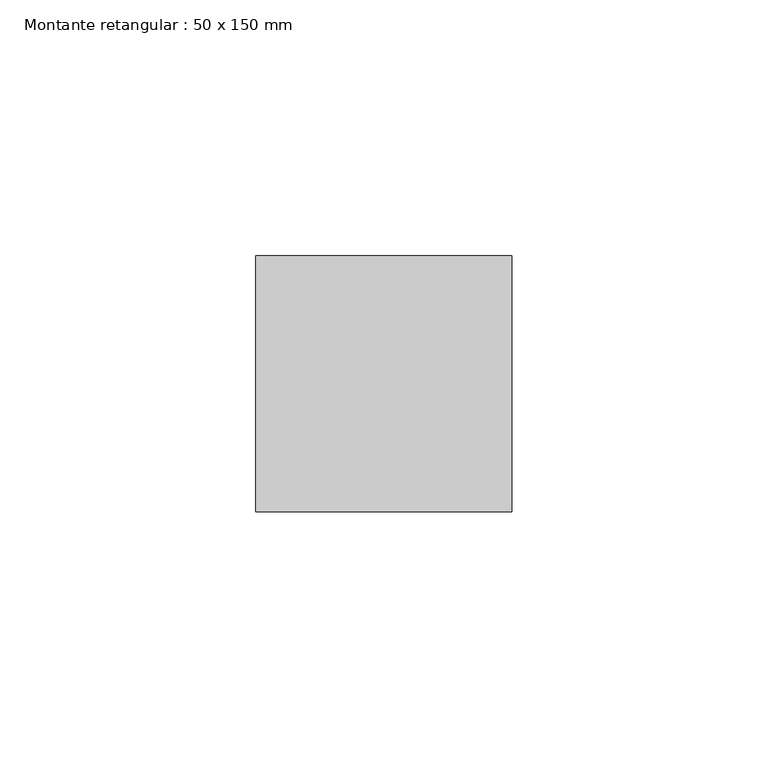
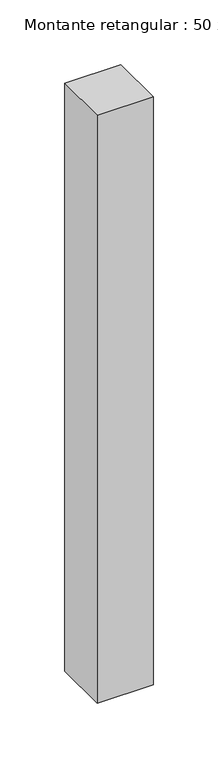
"""IFC4 building model written with IfcOpenShell, lengths in millimetres: member geometry, Montante retangular : 50 x 150 mm."""

from ifc_helpers import new_model, si_unit, frame, origin, place, context, project, spatial, polyline, outline, extrude, source, transform, mapped, element, save


def montante_retangular_50_x_150_mm_de7ae004(model_context):
    return source(origin(), model_context, "Body", "SweptSolid", [
        extrude(outline(polyline([(0.0, 25.0), (0.0, -25.0), (-50.0, -25.0), (-50.0, 25.0), (0.0, 25.0)])), frame((0.0, 0.0, -554.1666667), z_axis=(0.0, 0.0, 1.0), x_axis=(1.0, 0.0, 0.0)), (0.0, 0.0, 1.0), 554.1666667),
    ])


if __name__ == "__main__":
    model = new_model("IFC4")
    model_context = context("Model", 3, world=origin())
    ifc_project = project(units=[si_unit("LENGTHUNIT", "METRE", prefix="MILLI")], contexts=[model_context])
    site = spatial("IfcSite", under=ifc_project)
    building = spatial("IfcBuilding", under=site)
    placement = place(None, origin())
    montante_retangular_50_x_150_mm_shape = montante_retangular_50_x_150_mm_de7ae004(model_context)
    element("IfcMember", 1, ObjectType="Montante retangular : 50 x 150 mm", at=placement, inside=building, context=model_context, shape_type="MappedRepresentation", body=[
        mapped(montante_retangular_50_x_150_mm_shape, transform((0.0, 0.0, 0.0), x_axis=(1.0, 0.0, 0.0), y_axis=(0.0, 1.0, 0.0), z_axis=(0.0, 0.0, 1.0))),
    ])
    save(model, "model.ifc")
